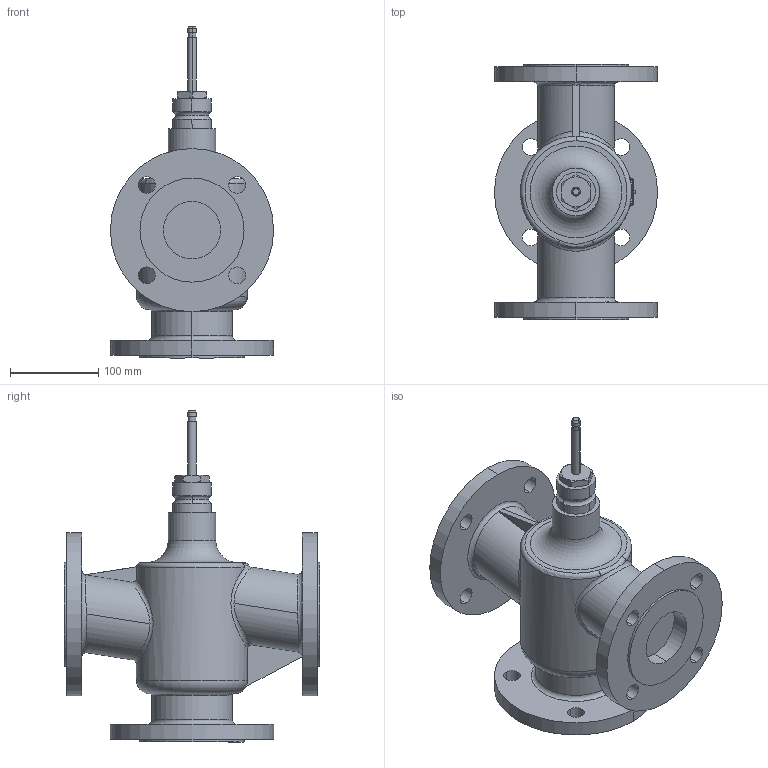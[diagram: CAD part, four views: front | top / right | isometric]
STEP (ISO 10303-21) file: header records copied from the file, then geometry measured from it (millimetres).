
FILE_DESCRIPTION(/* description */ (''),/* implementation_level */ '2;1');
FILE_NAME(/* name */ 'RAS_021823_00.stp',/* time_stamp */ '2012-11-07T11:59:20+01:00',/* author */ (''),/* organization */ (''),/* preprocessor_version */ 'ST-DEVELOPER v11',/* originating_system */ 'SIEMENS UGS NX 6.0',/* authorisation */ '');
FILE_SCHEMA (('AUTOMOTIVE_DESIGN { 1 0 10303 214 1 1 1 1 }'));
Length unit declared in the file: millimetre
Products named in the file (1): Ront9C9842n7
Bounding box: 185 x 290 x 376.5 mm (x, y, z)
Volume: 4315481.2 mm3; surface area: 321632 mm2
Topology: 1 solids, 2 shells, 157 faces, 386 edges, 249 vertices
Faces by surface type: cylinder 75, plane 46, torus 17, bspline 11, cone 6, sphere 2
Full cylindrical faces by diameter (mm): 54 x1
Entity records: 7013 total; most frequent: CARTESIAN_POINT 3294, DIRECTION 790, ORIENTED_EDGE 750, EDGE_CURVE 375, AXIS2_PLACEMENT_3D 333, VERTEX_POINT 244, EDGE_LOOP 203, CIRCLE 184
